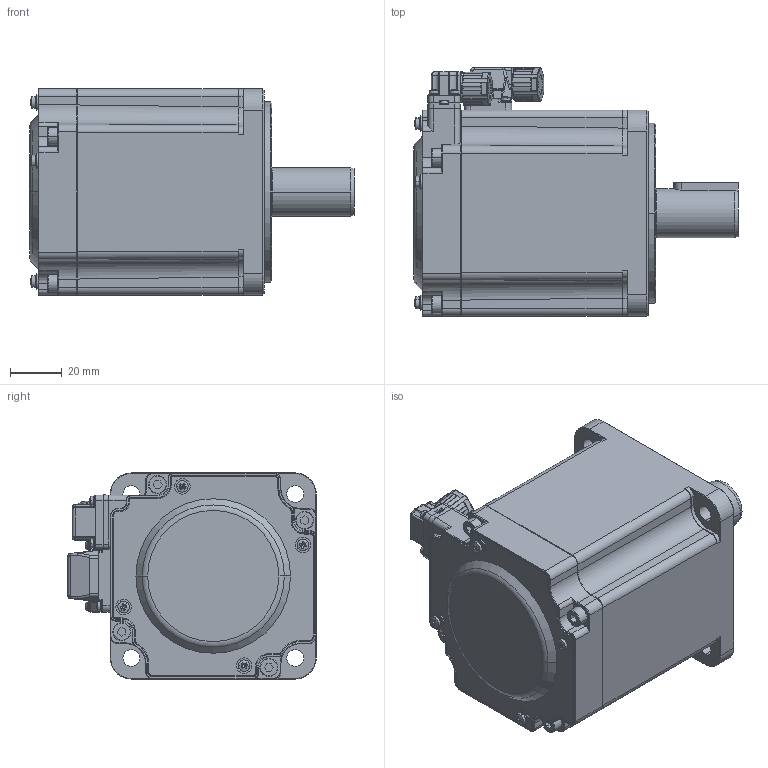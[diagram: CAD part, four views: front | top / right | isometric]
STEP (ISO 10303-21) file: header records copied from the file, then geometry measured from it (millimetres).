
FILE_DESCRIPTION (( 'STEP AP214' ), '1' );
FILE_NAME ('80儂釱750W眻脣萇儂.STEP', '2025-07-17T15:42:20', ( 'Microsoft' ), ( 'Microsoft' ), 'SwSTEP 2.0', 'SolidWorks 2025', '' );
FILE_SCHEMA (( 'AUTOMOTIVE_DESIGN' ));
Length unit declared in the file: millimetre
Products named in the file (1): 80机座750W直插电机
Bounding box: 126 x 96.5 x 80 mm (x, y, z)
Volume: 519561 mm3; surface area: 103729.4 mm2
Topology: 53 solids, 53 shells, 4895 faces, 12261 edges, 7584 vertices
Faces by surface type: plane 2550, cylinder 1443, bspline 306, torus 282, cone 264, sphere 50
Entity records: 165215 total; most frequent: CARTESIAN_POINT 49785, ORIENTED_EDGE 24370, DIRECTION 23268, EDGE_CURVE 12185, AXIS2_PLACEMENT_3D 8050, VERTEX_POINT 7576, VECTOR 7168, LINE 7168
